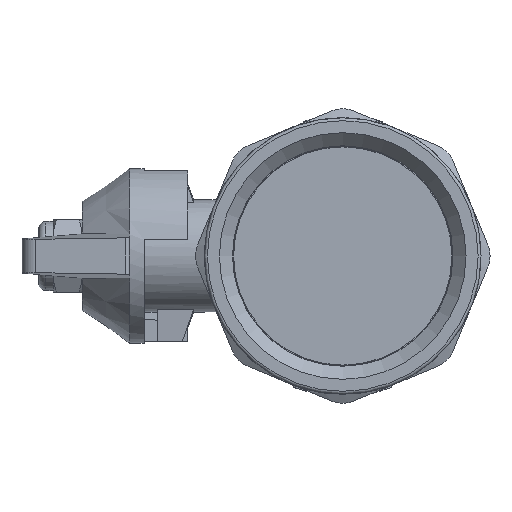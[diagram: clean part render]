
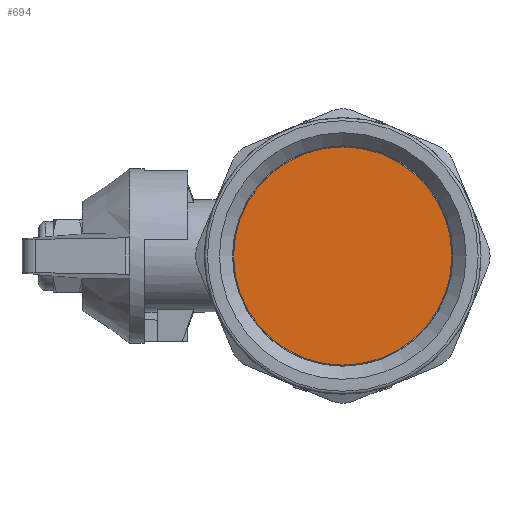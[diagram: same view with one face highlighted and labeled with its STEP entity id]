
A CAD part, left-side view. The second image highlights one B-rep face of the part: STEP entity #694.
In plain terms, the highlighted planar face has unit normal (-1, 0, 0).
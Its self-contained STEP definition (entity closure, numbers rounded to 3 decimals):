
#694=ADVANCED_FACE('',(#4984),#4986,.T.);
#4984=FACE_BOUND('',#4985,.T.);
#4985=EDGE_LOOP('',(#9336));
#4986=PLANE('',#4987);
#4987=AXIS2_PLACEMENT_3D('',#4988,#4989,#4990);
#4988=CARTESIAN_POINT('',(-39.25,0.,0.));
#4989=DIRECTION('',(-1.,0.,0.));
#4990=DIRECTION('',(0.,0.,1.));
#9336=ORIENTED_EDGE('',*,*,#11305,.T.);
#11305=EDGE_CURVE('',#14221,#14221,#14222,.T.);
#14221=VERTEX_POINT('',#29994);
#14222=CIRCLE('',#29995,15.);
#29994=CARTESIAN_POINT('',(-39.25,0.,15.));
#29995=AXIS2_PLACEMENT_3D('',#29996,#29997,#29998);
#29996=CARTESIAN_POINT('',(-39.25,0.,0.));
#29997=DIRECTION('',(-1.,0.,0.));
#29998=DIRECTION('',(0.,0.,1.));
